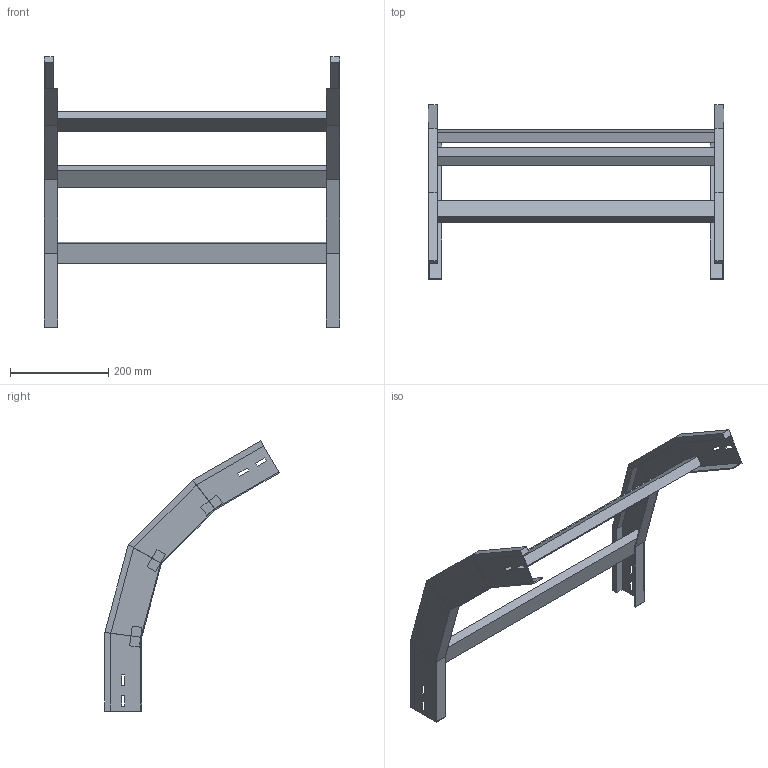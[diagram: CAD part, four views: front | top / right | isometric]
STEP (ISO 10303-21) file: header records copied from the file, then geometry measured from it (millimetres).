
FILE_DESCRIPTION (( 'STEP AP214' ), '1' );
FILE_NAME ('A2_41B3C600.step', '2025-02-21T15:00:08', ( '' ), ( '' ), 'SwSTEP 2.0', 'SolidWorks 2023', '' );
FILE_SCHEMA (( 'AUTOMOTIVE_DESIGN' ));
Length unit declared in the file: millimetre
Products named in the file (3): LONGH.DISCESA_60°_H75_R300; A2_41B3C600; TRAVERSINO_600
Assembly tree (5 placements, depth 2):
  A2_41B3C600
    LONGH.DISCESA_60°_H75_R300  x2
    TRAVERSINO_600  x3
Bounding box: 600 x 354.62 x 549.27 mm (x, y, z)
Volume: 1964267.7 mm3; surface area: 526230.3 mm2
Topology: 5 solids, 5 shells, 118 faces, 276 edges, 168 vertices
Faces by surface type: plane 118
Entity records: 1672 total; most frequent: CARTESIAN_POINT 276, ORIENTED_EDGE 264, DIRECTION 260, LINE 132, EDGE_CURVE 132, VECTOR 132, VERTEX_POINT 80, AXIS2_PLACEMENT_3D 64
